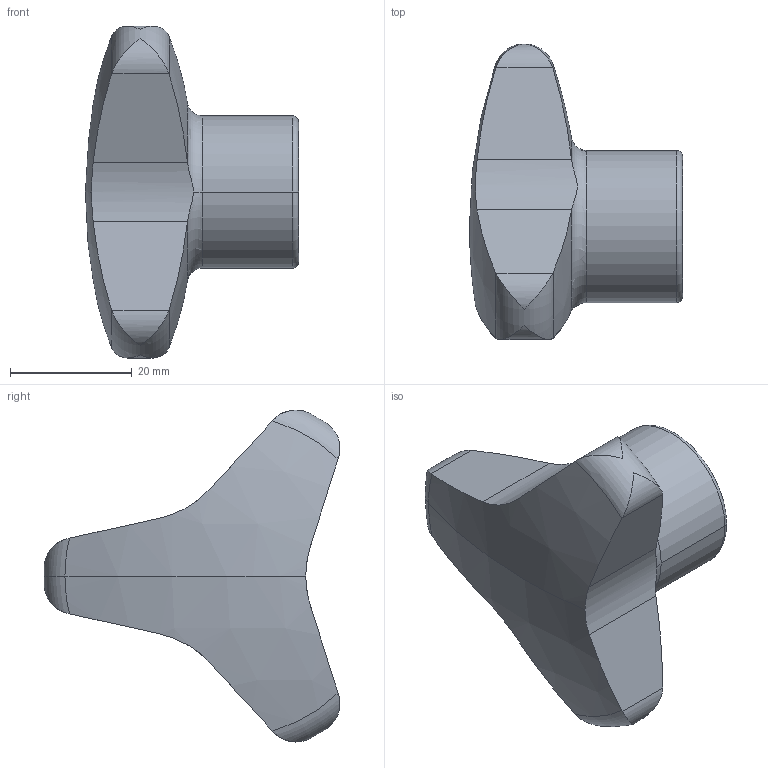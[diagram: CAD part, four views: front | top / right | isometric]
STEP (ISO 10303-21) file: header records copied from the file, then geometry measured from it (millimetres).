
FILE_DESCRIPTION (( 'STEP AP214' ), '1' );
FILE_NAME ('5345-60-B12-C.step', '2019-06-13T08:49:20', ( 'user' ), ( '' ), 'SwSTEP 2.0', 'SolidWorks 2019', '' );
FILE_SCHEMA (( 'AUTOMOTIVE_DESIGN' ));
Length unit declared in the file: millimetre
Products named in the file (1): 5345-60-B12-C
Bounding box: 35 x 48.58 x 54.53 mm (x, y, z)
Volume: 24555.5 mm3; surface area: 6974.6 mm2
Topology: 1 solids, 1 shells, 42 faces, 113 edges, 73 vertices
Faces by surface type: cylinder 16, torus 8, plane 8, sphere 6, cone 4
Entity records: 1619 total; most frequent: CARTESIAN_POINT 573, ORIENTED_EDGE 222, DIRECTION 205, EDGE_CURVE 111, AXIS2_PLACEMENT_3D 91, VERTEX_POINT 73, CIRCLE 48, EDGE_LOOP 44
